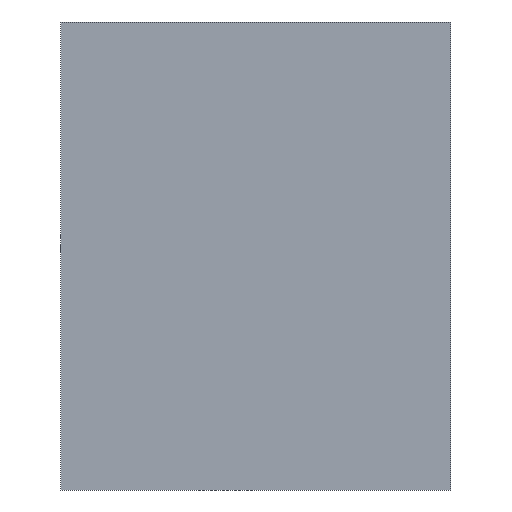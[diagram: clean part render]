
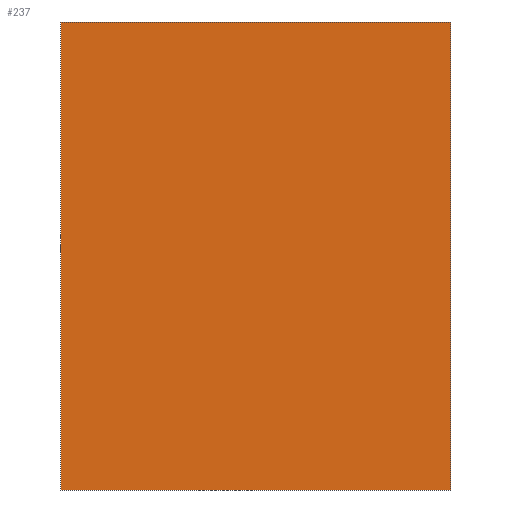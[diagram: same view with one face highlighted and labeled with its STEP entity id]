
A CAD part, front view. The second image highlights one B-rep face of the part: STEP entity #237.
In plain terms, the highlighted planar face has unit normal (0, -1, 0).
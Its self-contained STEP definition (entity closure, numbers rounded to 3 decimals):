
#21 = EDGE_CURVE('',#22,#24,#26,.T.);
#22 = VERTEX_POINT('',#23);
#23 = CARTESIAN_POINT('',(-60.,226.,120.));
#24 = VERTEX_POINT('',#25);
#25 = CARTESIAN_POINT('',(-60.,226.,138.));
#26 = SURFACE_CURVE('',#27,(#31,#43),.PCURVE_S1.);
#27 = LINE('',#28,#29);
#28 = CARTESIAN_POINT('',(-60.,226.,120.));
#29 = VECTOR('',#30,1.);
#30 = DIRECTION('',(0.,0.,1.));
#31 = PCURVE('',#32,#37);
#32 = PLANE('',#33);
#33 = AXIS2_PLACEMENT_3D('',#34,#35,#36);
#34 = CARTESIAN_POINT('',(-60.,226.,120.));
#35 = DIRECTION('',(1.,0.,-0.));
#36 = DIRECTION('',(0.,0.,1.));
#37 = DEFINITIONAL_REPRESENTATION('',(#38),#42);
#38 = LINE('',#39,#40);
#39 = CARTESIAN_POINT('',(0.,0.));
#40 = VECTOR('',#41,1.);
#41 = DIRECTION('',(1.,0.));
#42 = ( GEOMETRIC_REPRESENTATION_CONTEXT(2) 
PARAMETRIC_REPRESENTATION_CONTEXT() REPRESENTATION_CONTEXT('2D SPACE',''
  ) );
#43 = PCURVE('',#44,#49);
#44 = PLANE('',#45);
#45 = AXIS2_PLACEMENT_3D('',#46,#47,#48);
#46 = CARTESIAN_POINT('',(-60.,226.,120.));
#47 = DIRECTION('',(-0.,1.,0.));
#48 = DIRECTION('',(0.,0.,1.));
#49 = DEFINITIONAL_REPRESENTATION('',(#50),#54);
#50 = LINE('',#51,#52);
#51 = CARTESIAN_POINT('',(0.,0.));
#52 = VECTOR('',#53,1.);
#53 = DIRECTION('',(1.,0.));
#54 = ( GEOMETRIC_REPRESENTATION_CONTEXT(2) 
PARAMETRIC_REPRESENTATION_CONTEXT() REPRESENTATION_CONTEXT('2D SPACE',''
  ) );
#72 = PLANE('',#73);
#73 = AXIS2_PLACEMENT_3D('',#74,#75,#76);
#74 = CARTESIAN_POINT('',(-60.,226.,120.));
#75 = DIRECTION('',(0.,0.,1.));
#76 = DIRECTION('',(1.,0.,-0.));
#126 = PLANE('',#127);
#127 = AXIS2_PLACEMENT_3D('',#128,#129,#130);
#128 = CARTESIAN_POINT('',(-60.,226.,138.));
#129 = DIRECTION('',(0.,0.,1.));
#130 = DIRECTION('',(1.,0.,-0.));
#141 = EDGE_CURVE('',#142,#144,#146,.T.);
#142 = VERTEX_POINT('',#143);
#143 = CARTESIAN_POINT('',(-45.,226.,120.));
#144 = VERTEX_POINT('',#145);
#145 = CARTESIAN_POINT('',(-45.,226.,138.));
#146 = SURFACE_CURVE('',#147,(#151,#163),.PCURVE_S1.);
#147 = LINE('',#148,#149);
#148 = CARTESIAN_POINT('',(-45.,226.,120.));
#149 = VECTOR('',#150,1.);
#150 = DIRECTION('',(0.,0.,1.));
#151 = PCURVE('',#152,#157);
#152 = PLANE('',#153);
#153 = AXIS2_PLACEMENT_3D('',#154,#155,#156);
#154 = CARTESIAN_POINT('',(-45.,226.,120.));
#155 = DIRECTION('',(1.,0.,-0.));
#156 = DIRECTION('',(0.,0.,1.));
#157 = DEFINITIONAL_REPRESENTATION('',(#158),#162);
#158 = LINE('',#159,#160);
#159 = CARTESIAN_POINT('',(0.,0.));
#160 = VECTOR('',#161,1.);
#161 = DIRECTION('',(1.,0.));
#162 = ( GEOMETRIC_REPRESENTATION_CONTEXT(2) 
PARAMETRIC_REPRESENTATION_CONTEXT() REPRESENTATION_CONTEXT('2D SPACE',''
  ) );
#163 = PCURVE('',#44,#164);
#164 = DEFINITIONAL_REPRESENTATION('',(#165),#169);
#165 = LINE('',#166,#167);
#166 = CARTESIAN_POINT('',(0.,15.));
#167 = VECTOR('',#168,1.);
#168 = DIRECTION('',(1.,0.));
#169 = ( GEOMETRIC_REPRESENTATION_CONTEXT(2) 
PARAMETRIC_REPRESENTATION_CONTEXT() REPRESENTATION_CONTEXT('2D SPACE',''
  ) );
#237 = ADVANCED_FACE('',(#238),#44,.F.);
#238 = FACE_BOUND('',#239,.F.);
#239 = EDGE_LOOP('',(#240,#261,#262,#283));
#240 = ORIENTED_EDGE('',*,*,#241,.F.);
#241 = EDGE_CURVE('',#22,#142,#242,.T.);
#242 = SURFACE_CURVE('',#243,(#247,#254),.PCURVE_S1.);
#243 = LINE('',#244,#245);
#244 = CARTESIAN_POINT('',(-60.,226.,120.));
#245 = VECTOR('',#246,1.);
#246 = DIRECTION('',(1.,0.,-0.));
#247 = PCURVE('',#44,#248);
#248 = DEFINITIONAL_REPRESENTATION('',(#249),#253);
#249 = LINE('',#250,#251);
#250 = CARTESIAN_POINT('',(0.,0.));
#251 = VECTOR('',#252,1.);
#252 = DIRECTION('',(0.,1.));
#253 = ( GEOMETRIC_REPRESENTATION_CONTEXT(2) 
PARAMETRIC_REPRESENTATION_CONTEXT() REPRESENTATION_CONTEXT('2D SPACE',''
  ) );
#254 = PCURVE('',#72,#255);
#255 = DEFINITIONAL_REPRESENTATION('',(#256),#260);
#256 = LINE('',#257,#258);
#257 = CARTESIAN_POINT('',(0.,0.));
#258 = VECTOR('',#259,1.);
#259 = DIRECTION('',(1.,0.));
#260 = ( GEOMETRIC_REPRESENTATION_CONTEXT(2) 
PARAMETRIC_REPRESENTATION_CONTEXT() REPRESENTATION_CONTEXT('2D SPACE',''
  ) );
#261 = ORIENTED_EDGE('',*,*,#21,.T.);
#262 = ORIENTED_EDGE('',*,*,#263,.T.);
#263 = EDGE_CURVE('',#24,#144,#264,.T.);
#264 = SURFACE_CURVE('',#265,(#269,#276),.PCURVE_S1.);
#265 = LINE('',#266,#267);
#266 = CARTESIAN_POINT('',(-60.,226.,138.));
#267 = VECTOR('',#268,1.);
#268 = DIRECTION('',(1.,0.,-0.));
#269 = PCURVE('',#44,#270);
#270 = DEFINITIONAL_REPRESENTATION('',(#271),#275);
#271 = LINE('',#272,#273);
#272 = CARTESIAN_POINT('',(18.,0.));
#273 = VECTOR('',#274,1.);
#274 = DIRECTION('',(0.,1.));
#275 = ( GEOMETRIC_REPRESENTATION_CONTEXT(2) 
PARAMETRIC_REPRESENTATION_CONTEXT() REPRESENTATION_CONTEXT('2D SPACE',''
  ) );
#276 = PCURVE('',#126,#277);
#277 = DEFINITIONAL_REPRESENTATION('',(#278),#282);
#278 = LINE('',#279,#280);
#279 = CARTESIAN_POINT('',(0.,0.));
#280 = VECTOR('',#281,1.);
#281 = DIRECTION('',(1.,0.));
#282 = ( GEOMETRIC_REPRESENTATION_CONTEXT(2) 
PARAMETRIC_REPRESENTATION_CONTEXT() REPRESENTATION_CONTEXT('2D SPACE',''
  ) );
#283 = ORIENTED_EDGE('',*,*,#141,.F.);
